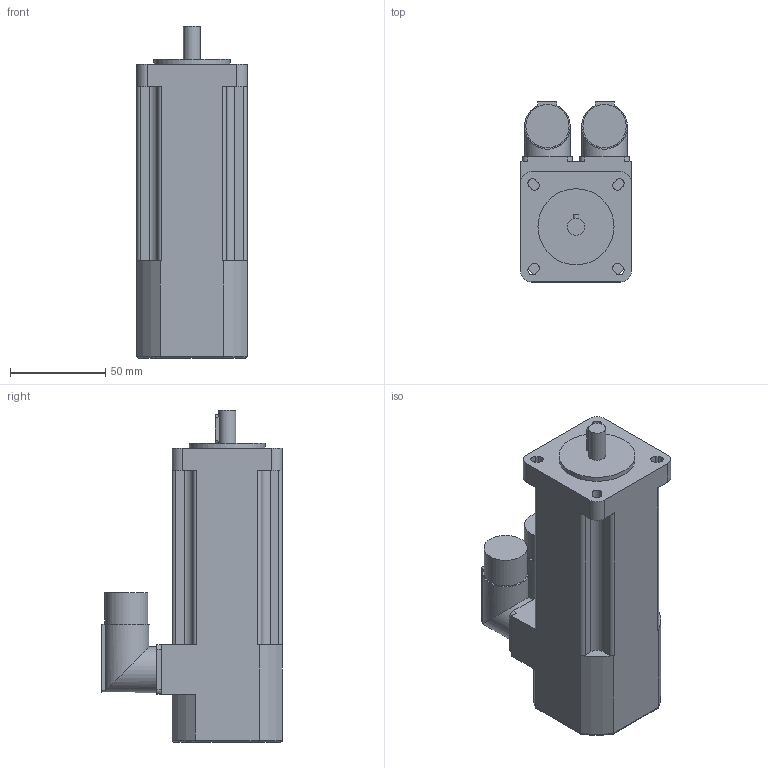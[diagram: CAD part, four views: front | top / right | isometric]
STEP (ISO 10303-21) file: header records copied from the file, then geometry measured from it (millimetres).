
FILE_DESCRIPTION(/* description */ (''),/* implementation_level */ '2;1');
FILE_NAME(/* name */ '\\Lafnas01\disegni\Archivi Lafert\3D\CAD 3D\MODELLI\Assiemi clienti\Serad\Modelli 3D Serad\B28Q\Encoder\Without Brake\B28E2Qxx6ARx2033.ipt.stp',/* time_stamp */ '2015-09-07T10:48:28+02:00',/* author */ ('Pastrello Ylenia'),/* organization */ (''),/* preprocessor_version */ 'ST-DEVELOPER v15.6',/* originating_system */ 'Autodesk Inventor 2015',/* authorisation */ '');
FILE_SCHEMA (('AUTOMOTIVE_DESIGN { 1 0 10303 214 3 1 1 }'));
Length unit declared in the file: millimetre
Products named in the file (1): B28E2Qxx6ARx2033
Bounding box: 58 x 95 x 174.5 mm (x, y, z)
Volume: 531091.3 mm3; surface area: 52745.2 mm2
Topology: 1 solids, 1 shells, 135 faces, 364 edges, 237 vertices
Faces by surface type: plane 71, cylinder 60, torus 4
Full cylindrical faces by diameter (mm): 9 x1, 22.7 x2, 24 x2, 40 x1
Entity records: 4341 total; most frequent: CARTESIAN_POINT 864, DIRECTION 737, ORIENTED_EDGE 712, EDGE_CURVE 355, AXIS2_PLACEMENT_3D 258, VERTEX_POINT 235, LINE 221, VECTOR 221
